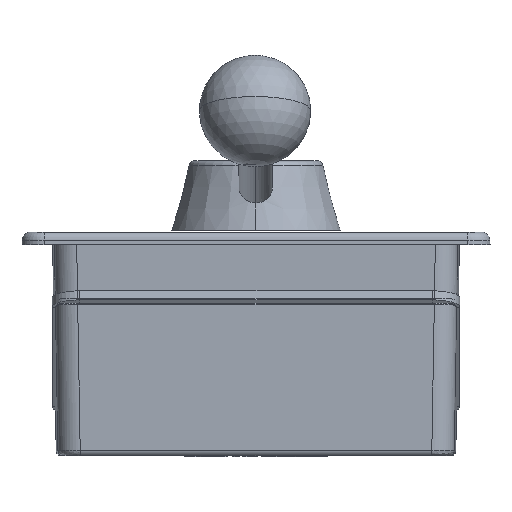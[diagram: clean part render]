
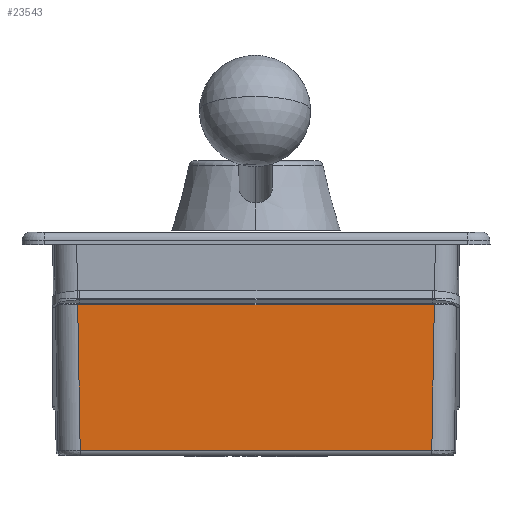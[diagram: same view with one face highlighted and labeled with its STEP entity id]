
A CAD part, front view. The second image highlights one B-rep face of the part: STEP entity #23543.
In plain terms, the highlighted planar face has unit normal (0, -1, -0.018).
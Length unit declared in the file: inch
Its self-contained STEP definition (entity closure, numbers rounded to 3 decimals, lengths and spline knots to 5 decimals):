
#1466 = PLANE ( 'NONE',  #29187 ) ;
#1818 = VERTEX_POINT ( 'NONE', #28037 ) ;
#2827 = VECTOR ( 'NONE', #20236, 39.37008 ) ;
#4779 = CARTESIAN_POINT ( 'NONE',  ( 2.25, -2.175, -0.65709 ) ) ;
#5845 = LINE ( 'NONE', #17708, #36874 ) ;
#6539 = VECTOR ( 'NONE', #33155, 39.37008 ) ;
#8268 = DIRECTION ( 'NONE',  ( 0.017, -0.017, 1. ) ) ;
#8385 = CARTESIAN_POINT ( 'NONE',  ( 2.25, -2.14616, -2.30949 ) ) ;
#9353 = LINE ( 'NONE', #21231, #6539 ) ;
#9396 = VERTEX_POINT ( 'NONE', #29889 ) ;
#9825 = VERTEX_POINT ( 'NONE', #20757 ) ;
#10588 = VERTEX_POINT ( 'NONE', #15113 ) ;
#12563 = EDGE_CURVE ( 'NONE', #10588, #1818, #23017, .T. ) ;
#12681 = VECTOR ( 'NONE', #8268, 39.37008 ) ;
#15113 = CARTESIAN_POINT ( 'NONE',  ( 1.97203, -2.14616, -2.30949 ) ) ;
#15995 = EDGE_CURVE ( 'NONE', #9396, #10588, #35104, .T. ) ;
#16156 = ORIENTED_EDGE ( 'NONE', *, *, #12563, .T. ) ;
#16590 = ORIENTED_EDGE ( 'NONE', *, *, #21783, .T. ) ;
#16614 = DIRECTION ( 'NONE',  ( 0., -1., -0.017 ) ) ;
#17708 = CARTESIAN_POINT ( 'NONE',  ( 2.25, -2.17472, -0.67299 ) ) ;
#18655 = ORIENTED_EDGE ( 'NONE', *, *, #20604, .T. ) ;
#20236 = DIRECTION ( 'NONE',  ( 1., 0., 0. ) ) ;
#20604 = EDGE_CURVE ( 'NONE', #9825, #9396, #9353, .T. ) ;
#20757 = CARTESIAN_POINT ( 'NONE',  ( -2.00046, -2.17472, -0.67299 ) ) ;
#21231 = CARTESIAN_POINT ( 'NONE',  ( -1.97104, -2.14516, -2.36658 ) ) ;
#21783 = EDGE_CURVE ( 'NONE', #1818, #9825, #5845, .T. ) ;
#23017 = LINE ( 'NONE', #34981, #12681 ) ;
#23543 = ADVANCED_FACE ( 'NONE', ( #28105 ), #1466, .T. ) ;
#24705 = EDGE_LOOP ( 'NONE', ( #16156, #16590, #18655, #24997 ) ) ;
#24997 = ORIENTED_EDGE ( 'NONE', *, *, #15995, .T. ) ;
#28037 = CARTESIAN_POINT ( 'NONE',  ( 2.00046, -2.17472, -0.67299 ) ) ;
#28105 = FACE_OUTER_BOUND ( 'NONE', #24705, .T. ) ;
#28487 = DIRECTION ( 'NONE',  ( 0., 0.017, -1. ) ) ;
#29187 = AXIS2_PLACEMENT_3D ( 'NONE', #4779, #16614, #28487 ) ;
#29587 = DIRECTION ( 'NONE',  ( -1., 0., 0. ) ) ;
#29889 = CARTESIAN_POINT ( 'NONE',  ( -1.97203, -2.14616, -2.30949 ) ) ;
#33155 = DIRECTION ( 'NONE',  ( 0.017, 0.017, -1. ) ) ;
#34981 = CARTESIAN_POINT ( 'NONE',  ( 2.00081, -2.17508, -0.65277 ) ) ;
#35104 = LINE ( 'NONE', #8385, #2827 ) ;
#36874 = VECTOR ( 'NONE', #29587, 39.37008 ) ;
